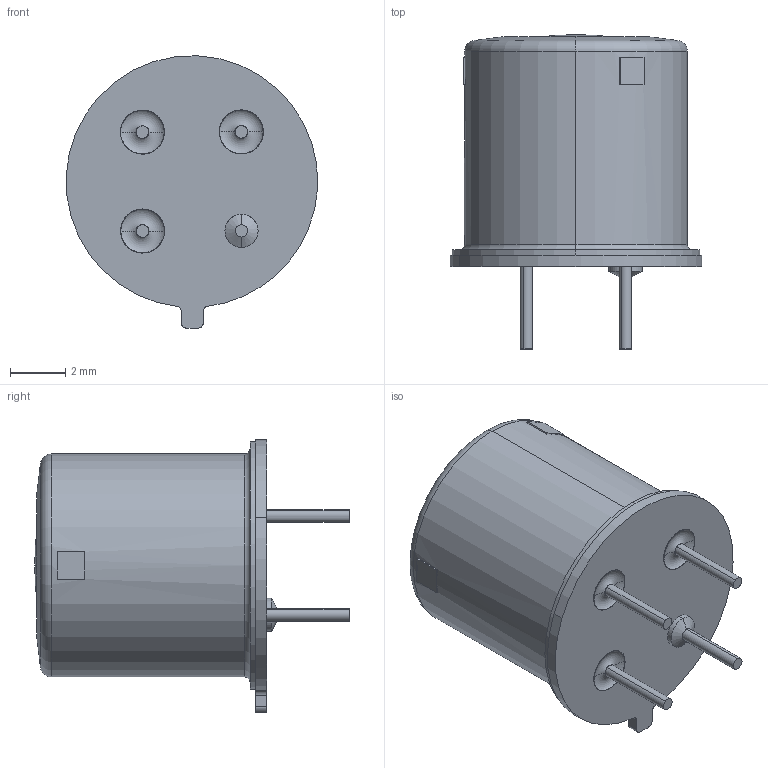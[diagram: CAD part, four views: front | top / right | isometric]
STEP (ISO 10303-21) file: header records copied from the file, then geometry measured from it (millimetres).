
FILE_DESCRIPTION((''),'2;1');
FILE_NAME('MLX90614XCH_-_ALTIUM_ASM','2019-02-08T',('jre'),(''),'PRO/ENGINEER BY PARAMETRIC TECHNOLOGY CORPORATION, 2010280','PRO/ENGINEER BY PARAMETRIC TECHNOLOGY CORPORATION, 2010280','');
FILE_SCHEMA(('CONFIG_CONTROL_DESIGN'));
Length unit declared in the file: millimetre
Products named in the file (13): PRT0023; 0_45MM_BRAZED_PIN_-_SHORT_ANY; CIRPATTERN3_1_; INDENT27; BODY-MOVE_COPY8; CIRPATTERN3_2_; MLX90614_DCH_DCI_CAP_ANY_ASM; MLX90614_DCH_DCI_LENSE_ANY; 90621_BASE_ANY; PRT0024; MLX90614XCH_-_ALTIUM_ANY_ASM; _MLX90614XCH_-_ALTIUM; MLX90614XCH_-_ALTIUM_ASM
Assembly tree (16 placements, depth 4):
  MLX90614XCH_-_ALTIUM_ASM
    MLX90614XCH_-_ALTIUM_ANY_ASM
      PRT0023  x3
      0_45MM_BRAZED_PIN_-_SHORT_ANY
      MLX90614_DCH_DCI_CAP_ANY_ASM
        CIRPATTERN3_1_
        INDENT27
        BODY-MOVE_COPY8
        CIRPATTERN3_2_
      MLX90614_DCH_DCI_LENSE_ANY
      90621_BASE_ANY
      PRT0024  x3
    _MLX90614XCH_-_ALTIUM
Bounding box: 9.13 x 11.41 x 9.9 mm (x, y, z)
Volume: 170.2 mm3; surface area: 819.5 mm2
Topology: 13 solids, 13 shells, 217 faces, 504 edges, 328 vertices
Faces by surface type: plane 93, cylinder 92, torus 24, cone 6, revolution 2
Entity records: 5689 total; most frequent: DIRECTION 1075, CARTESIAN_POINT 949, ORIENTED_EDGE 860, EDGE_CURVE 430, AXIS2_PLACEMENT_3D 425, VERTEX_POINT 280, VECTOR 223, LINE 223
